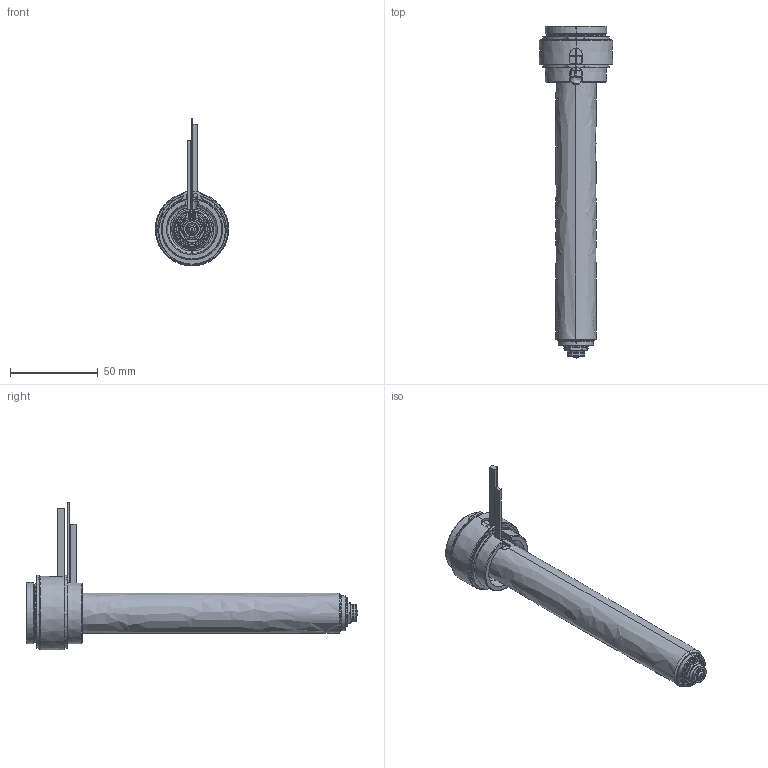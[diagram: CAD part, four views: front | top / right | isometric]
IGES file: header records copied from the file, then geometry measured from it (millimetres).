
Start section: SolidWorks IGES file using analytic representation for surfaces
Global section: file name: C:\Documents and Settings\ws-20\Desktop\TEM\UGER3554-S-A-1 [Øb-1.10  ØC-7.0].IGS; native system: SolidWorks 2012; preprocessor: SolidWorks 2012; author: ws-20; date: 120410.101612; units: millimetre
Bounding box: 42 x 189.4 x 84.4 mm (x, y, z)
Surface area: 43561.4 mm2 (no closed solid volume)
Topology: 0 solids, 0 shells, 205 faces, 3570 edges, 3570 vertices
Faces by surface type: revolution 130, bspline 75
